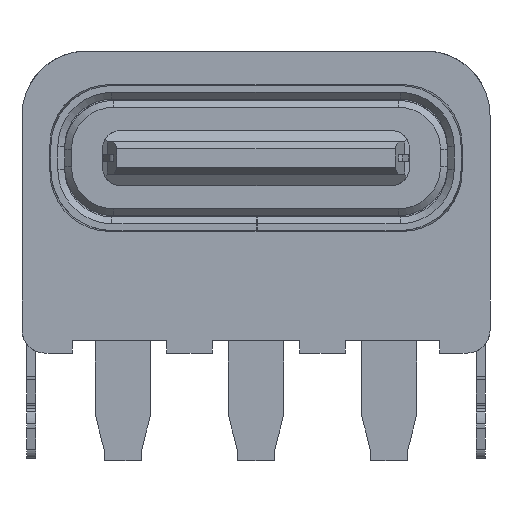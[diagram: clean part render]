
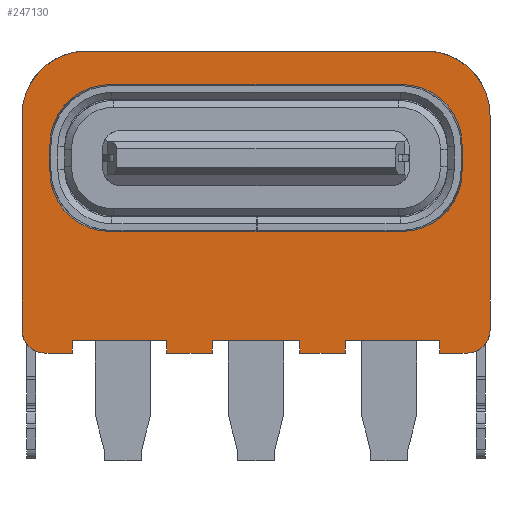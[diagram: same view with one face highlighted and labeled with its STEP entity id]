
A CAD part, front view. The second image highlights one B-rep face of the part: STEP entity #247130.
In plain terms, the highlighted planar face has unit normal (0, -1, 0).
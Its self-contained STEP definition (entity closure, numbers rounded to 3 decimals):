
#27990=CARTESIAN_POINT('',(-3.19,-1.15,-0.22));
#28000=VERTEX_POINT('',#27990);
#28050=CARTESIAN_POINT('',(-3.19,-1.15,1.08));
#28060=DIRECTION('',(0.,1.,0.));
#28070=DIRECTION('',(1.,-0.,0.));
#28080=AXIS2_PLACEMENT_3D('',#28050,#28060,#28070);
#28090=CIRCLE('',#28080,1.3);
#28100=CARTESIAN_POINT('',(-4.49,-1.15,1.08));
#28110=VERTEX_POINT('',#28100);
#28120=EDGE_CURVE('',#28000,#28110,#28090,.T.);
#45900=CARTESIAN_POINT('',(5.1,-1.15,2.31));
#45910=VERTEX_POINT('',#45900);
#45940=CARTESIAN_POINT('',(3.7,-1.15,2.31));
#45950=DIRECTION('',(-0.,1.,-0.));
#45960=DIRECTION('',(1.,0.,0.));
#45970=AXIS2_PLACEMENT_3D('',#45940,#45950,#45960);
#45980=CIRCLE('',#45970,1.4);
#45990=CARTESIAN_POINT('',(3.7,-1.15,3.71));
#46000=VERTEX_POINT('',#45990);
#46010=EDGE_CURVE('',#46000,#45910,#45980,.T.);
#69470=CARTESIAN_POINT('',(4.49,-1.15,1.68));
#69480=VERTEX_POINT('',#69470);
#69530=CARTESIAN_POINT('',(4.49,-1.15,2.66));
#69540=DIRECTION('',(0.,0.,-1.));
#69550=VECTOR('',#69540,1.);
#69560=LINE('',#69530,#69550);
#69570=CARTESIAN_POINT('',(4.49,-1.15,1.08));
#69580=VERTEX_POINT('',#69570);
#69590=EDGE_CURVE('',#69480,#69580,#69560,.T.);
#77510=CARTESIAN_POINT('',(3.19,-1.15,1.08));
#77520=DIRECTION('',(-0.,1.,0.));
#77530=DIRECTION('',(1.,0.,0.));
#77540=AXIS2_PLACEMENT_3D('',#77510,#77520,#77530);
#77550=CIRCLE('',#77540,1.3);
#77560=CARTESIAN_POINT('',(3.19,-1.15,-0.22));
#77570=VERTEX_POINT('',#77560);
#77580=EDGE_CURVE('',#69580,#77570,#77550,.T.);
#112550=CARTESIAN_POINT('',(-3.19,-1.15,2.98));
#112560=VERTEX_POINT('',#112550);
#112610=CARTESIAN_POINT('',(161.,-1.15,2.98));
#112620=DIRECTION('',(1.,-0.,0.));
#112630=VECTOR('',#112620,1.);
#112640=LINE('',#112610,#112630);
#112650=CARTESIAN_POINT('',(3.19,-1.15,2.98));
#112660=VERTEX_POINT('',#112650);
#112670=EDGE_CURVE('',#112560,#112660,#112640,.T.);
#153930=CARTESIAN_POINT('',(161.,-1.15,3.71));
#153940=DIRECTION('',(-1.,0.,0.));
#153950=VECTOR('',#153940,1.);
#153960=LINE('',#153930,#153950);
#153970=CARTESIAN_POINT('',(-3.7,-1.15,3.71));
#153980=VERTEX_POINT('',#153970);
#153990=EDGE_CURVE('',#46000,#153980,#153960,.T.);
#243580=CARTESIAN_POINT('',(-4.49,-1.15,1.68));
#243590=VERTEX_POINT('',#243580);
#243620=CARTESIAN_POINT('',(-3.19,-1.15,1.68));
#243630=DIRECTION('',(-0.,1.,-0.));
#243640=DIRECTION('',(1.,0.,0.));
#243650=AXIS2_PLACEMENT_3D('',#243620,#243630,#243640);
#243660=CIRCLE('',#243650,1.3);
#243670=EDGE_CURVE('',#243590,#112560,#243660,.T.);
#243800=CARTESIAN_POINT('',(-4.49,-1.15,2.66));
#243810=DIRECTION('',(-0.,-0.,1.));
#243820=VECTOR('',#243810,1.);
#243830=LINE('',#243800,#243820);
#243840=EDGE_CURVE('',#28110,#243590,#243830,.T.);
#245130=CARTESIAN_POINT('',(161.,-1.15,-0.22));
#245140=DIRECTION('',(1.,-0.,0.));
#245150=VECTOR('',#245140,1.);
#245160=LINE('',#245130,#245150);
#245170=EDGE_CURVE('',#28000,#77570,#245160,.T.);
#245370=CARTESIAN_POINT('',(3.19,-1.15,1.68));
#245380=DIRECTION('',(0.,1.,0.));
#245390=DIRECTION('',(1.,-0.,0.));
#245400=AXIS2_PLACEMENT_3D('',#245370,#245380,#245390);
#245410=CIRCLE('',#245400,1.3);
#245420=EDGE_CURVE('',#112660,#69480,#245410,.T.);
#245490=CARTESIAN_POINT('',(-5.2,-1.15,-0.991)
);
#245500=DIRECTION('',(-0.,-1.,-0.));
#245510=DIRECTION('',(-1.,0.,0.));
#245520=AXIS2_PLACEMENT_3D('',#245490,#245500,#245510);
#245530=PLANE('',#245520);
#245540=ORIENTED_EDGE('',*,*,#28120,.T.);
#245550=ORIENTED_EDGE('',*,*,#245170,.F.);
#245560=ORIENTED_EDGE('',*,*,#77580,.T.);
#245570=ORIENTED_EDGE('',*,*,#69590,.T.);
#245580=ORIENTED_EDGE('',*,*,#245420,.T.);
#245590=ORIENTED_EDGE('',*,*,#112670,.T.);
#245600=ORIENTED_EDGE('',*,*,#243670,.T.);
#245610=ORIENTED_EDGE('',*,*,#243840,.T.);
#245620=EDGE_LOOP('',(#245610,#245600,#245590,#245580,#245570,#245560,
#245550,#245540));
#245630=FACE_BOUND('',#245620,.T.);
#245640=CARTESIAN_POINT('',(-3.7,-1.15,2.31));
#245650=DIRECTION('',(0.,1.,-0.));
#245660=DIRECTION('',(1.,-0.,0.));
#245670=AXIS2_PLACEMENT_3D('',#245640,#245650,#245660);
#245680=CIRCLE('',#245670,1.4);
#245690=CARTESIAN_POINT('',(-5.1,-1.15,2.31));
#245700=VERTEX_POINT('',#245690);
#245710=EDGE_CURVE('',#245700,#153980,#245680,.T.);
#245720=ORIENTED_EDGE('',*,*,#245710,.F.);
#245730=ORIENTED_EDGE('',*,*,#153990,.T.);
#245740=ORIENTED_EDGE('',*,*,#46010,.F.);
#245750=CARTESIAN_POINT('',(5.1,-1.15,2.66));
#245760=DIRECTION('',(0.,0.,-1.));
#245770=VECTOR('',#245760,1.);
#245780=LINE('',#245750,#245770);
#245790=CARTESIAN_POINT('',(5.1,-1.15,-2.37));
#245800=VERTEX_POINT('',#245790);
#245810=EDGE_CURVE('',#45910,#245800,#245780,.T.);
#245820=ORIENTED_EDGE('',*,*,#245810,.F.);
#245830=CARTESIAN_POINT('',(4.6,-1.15,-2.37));
#245840=DIRECTION('',(0.,1.,0.));
#245850=DIRECTION('',(1.,0.,0.));
#245860=AXIS2_PLACEMENT_3D('',#245830,#245840,#245850);
#245870=CIRCLE('',#245860,0.5);
#245880=CARTESIAN_POINT('',(4.6,-1.15,-2.87));
#245890=VERTEX_POINT('',#245880);
#245900=EDGE_CURVE('',#245800,#245890,#245870,.T.);
#245910=ORIENTED_EDGE('',*,*,#245900,.F.);
#245920=CARTESIAN_POINT('',(161.,-1.15,-2.87));
#245930=DIRECTION('',(1.,0.,0.));
#245940=VECTOR('',#245930,1.);
#245950=LINE('',#245920,#245940);
#245960=CARTESIAN_POINT('',(4.,-1.15,-2.87));
#245970=VERTEX_POINT('',#245960);
#245980=EDGE_CURVE('',#245970,#245890,#245950,.T.);
#245990=ORIENTED_EDGE('',*,*,#245980,.T.);
#246000=CARTESIAN_POINT('',(4.,-1.15,2.66));
#246010=DIRECTION('',(0.,0.,1.));
#246020=VECTOR('',#246010,1.);
#246030=LINE('',#246000,#246020);
#246040=CARTESIAN_POINT('',(4.,-1.15,-2.605));
#246050=VERTEX_POINT('',#246040);
#246060=EDGE_CURVE('',#245970,#246050,#246030,.T.);
#246070=ORIENTED_EDGE('',*,*,#246060,.F.);
#246080=CARTESIAN_POINT('',(161.,-1.15,-2.605));
#246090=DIRECTION('',(1.,0.,0.));
#246100=VECTOR('',#246090,1.);
#246110=LINE('',#246080,#246100);
#246120=CARTESIAN_POINT('',(1.95,-1.15,-2.605));
#246130=VERTEX_POINT('',#246120);
#246140=EDGE_CURVE('',#246130,#246050,#246110,.T.);
#246150=ORIENTED_EDGE('',*,*,#246140,.T.);
#246160=CARTESIAN_POINT('',(1.95,-1.15,2.66));
#246170=DIRECTION('',(0.,0.,-1.));
#246180=VECTOR('',#246170,1.);
#246190=LINE('',#246160,#246180);
#246200=CARTESIAN_POINT('',(1.95,-1.15,-2.87));
#246210=VERTEX_POINT('',#246200);
#246220=EDGE_CURVE('',#246130,#246210,#246190,.T.);
#246230=ORIENTED_EDGE('',*,*,#246220,.F.);
#246240=CARTESIAN_POINT('',(161.,-1.15,-2.87));
#246250=DIRECTION('',(1.,0.,0.));
#246260=VECTOR('',#246250,1.);
#246270=LINE('',#246240,#246260);
#246280=CARTESIAN_POINT('',(0.95,-1.15,-2.87));
#246290=VERTEX_POINT('',#246280);
#246300=EDGE_CURVE('',#246290,#246210,#246270,.T.);
#246310=ORIENTED_EDGE('',*,*,#246300,.T.);
#246320=CARTESIAN_POINT('',(0.95,-1.15,2.66));
#246330=DIRECTION('',(0.,0.,1.));
#246340=VECTOR('',#246330,1.);
#246350=LINE('',#246320,#246340);
#246360=CARTESIAN_POINT('',(0.95,-1.15,-2.605))
;
#246370=VERTEX_POINT('',#246360);
#246380=EDGE_CURVE('',#246290,#246370,#246350,.T.);
#246390=ORIENTED_EDGE('',*,*,#246380,.F.);
#246400=CARTESIAN_POINT('',(161.,-1.15,-2.605));
#246410=DIRECTION('',(1.,0.,0.));
#246420=VECTOR('',#246410,1.);
#246430=LINE('',#246400,#246420);
#246440=CARTESIAN_POINT('',(-0.95,-1.15,-2.605))
;
#246450=VERTEX_POINT('',#246440);
#246460=EDGE_CURVE('',#246450,#246370,#246430,.T.);
#246470=ORIENTED_EDGE('',*,*,#246460,.T.);
#246480=CARTESIAN_POINT('',(-0.95,-1.15,2.66));
#246490=DIRECTION('',(0.,0.,-1.));
#246500=VECTOR('',#246490,1.);
#246510=LINE('',#246480,#246500);
#246520=CARTESIAN_POINT('',(-0.95,-1.15,-2.87));
#246530=VERTEX_POINT('',#246520);
#246540=EDGE_CURVE('',#246450,#246530,#246510,.T.);
#246550=ORIENTED_EDGE('',*,*,#246540,.F.);
#246560=CARTESIAN_POINT('',(161.,-1.15,-2.87));
#246570=DIRECTION('',(1.,0.,0.));
#246580=VECTOR('',#246570,1.);
#246590=LINE('',#246560,#246580);
#246600=CARTESIAN_POINT('',(-1.95,-1.15,-2.87));
#246610=VERTEX_POINT('',#246600);
#246620=EDGE_CURVE('',#246610,#246530,#246590,.T.);
#246630=ORIENTED_EDGE('',*,*,#246620,.T.);
#246640=CARTESIAN_POINT('',(-1.95,-1.15,2.66));
#246650=DIRECTION('',(0.,0.,1.));
#246660=VECTOR('',#246650,1.);
#246670=LINE('',#246640,#246660);
#246680=CARTESIAN_POINT('',(-1.95,-1.15,-2.605))
;
#246690=VERTEX_POINT('',#246680);
#246700=EDGE_CURVE('',#246610,#246690,#246670,.T.);
#246710=ORIENTED_EDGE('',*,*,#246700,.F.);
#246720=CARTESIAN_POINT('',(161.,-1.15,-2.605));
#246730=DIRECTION('',(1.,0.,0.));
#246740=VECTOR('',#246730,1.);
#246750=LINE('',#246720,#246740);
#246760=CARTESIAN_POINT('',(-4.,-1.15,-2.605))
;
#246770=VERTEX_POINT('',#246760);
#246780=EDGE_CURVE('',#246770,#246690,#246750,.T.);
#246790=ORIENTED_EDGE('',*,*,#246780,.T.);
#246800=CARTESIAN_POINT('',(-4.,-1.15,2.66));
#246810=DIRECTION('',(0.,0.,-1.));
#246820=VECTOR('',#246810,1.);
#246830=LINE('',#246800,#246820);
#246840=CARTESIAN_POINT('',(-4.,-1.15,-2.87));
#246850=VERTEX_POINT('',#246840);
#246860=EDGE_CURVE('',#246770,#246850,#246830,.T.);
#246870=ORIENTED_EDGE('',*,*,#246860,.F.);
#246880=CARTESIAN_POINT('',(161.,-1.15,-2.87));
#246890=DIRECTION('',(1.,0.,0.));
#246900=VECTOR('',#246890,1.);
#246910=LINE('',#246880,#246900);
#246920=CARTESIAN_POINT('',(-4.6,-1.15,-2.87));
#246930=VERTEX_POINT('',#246920);
#246940=EDGE_CURVE('',#246930,#246850,#246910,.T.);
#246950=ORIENTED_EDGE('',*,*,#246940,.T.);
#246960=CARTESIAN_POINT('',(-4.6,-1.15,-2.37));
#246970=DIRECTION('',(0.,1.,0.));
#246980=DIRECTION('',(1.,0.,0.));
#246990=AXIS2_PLACEMENT_3D('',#246960,#246970,#246980);
#247000=CIRCLE('',#246990,0.5);
#247010=CARTESIAN_POINT('',(-5.1,-1.15,-2.37));
#247020=VERTEX_POINT('',#247010);
#247030=EDGE_CURVE('',#246930,#247020,#247000,.T.);
#247040=ORIENTED_EDGE('',*,*,#247030,.F.);
#247050=CARTESIAN_POINT('',(-5.1,-1.15,2.66));
#247060=DIRECTION('',(0.,0.,1.));
#247070=VECTOR('',#247060,1.);
#247080=LINE('',#247050,#247070);
#247090=EDGE_CURVE('',#247020,#245700,#247080,.T.);
#247100=ORIENTED_EDGE('',*,*,#247090,.F.);
#247110=EDGE_LOOP('',(#247100,#247040,#246950,#246870,#246790,#246710,
#246630,#246550,#246470,#246390,#246310,#246230,#246150,#246070,#245990,
#245910,#245820,#245740,#245730,#245720));
#247120=FACE_OUTER_BOUND('',#247110,.T.);
#247130=ADVANCED_FACE('',(#245630,#247120),#245530,.T.);
